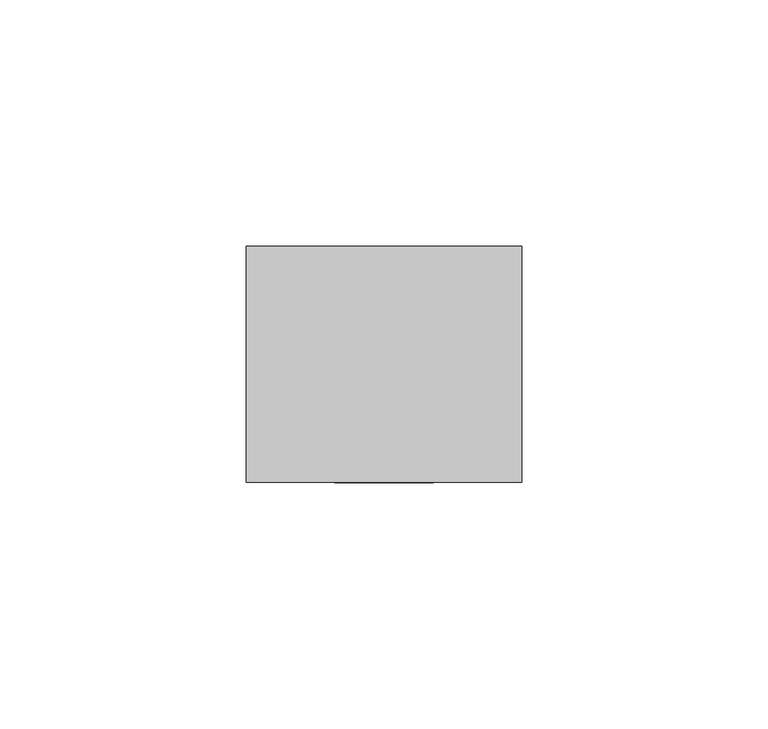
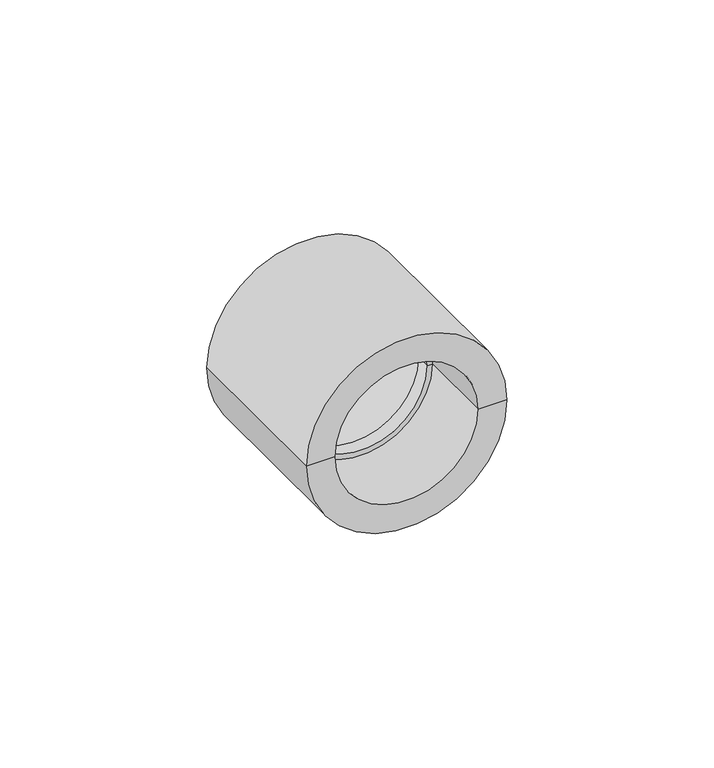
"""IFC4 building model written with IfcOpenShell, lengths in millimetres: pipe fitting geometry, NIRON RED termofusion manguito : Estándar."""

from ifc_helpers import new_model, si_unit, frame, origin, place, context, project, spatial, polyline, circle_curve, source, transform, mapped, element, save
from ifc_brep_helpers import plane_surface, cylinder_surface, revolved_surface, advanced_brep


def pipe_fitting_a914c4f6(model_context):
    return source(origin(), model_context, "Body", "AdvancedBrep", [
        advanced_brep(
        [(28.0, 48.0, 0.0), (-28.0, 48.0, 0.0), (-20.0, 48.0, 0.0), (20.0, 48.0, 0.0), (28.0, 0.0, 0.0), (-28.0, 0.0, 0.0), (20.0, 0.0, 0.0), (-20.0, 0.0, 0.0), (20.0, 22.0, 0.0), (-20.0, 22.0, 0.0), (18.5, 22.0, 0.0), (-18.5, 22.0, 0.0), (18.5, 26.0, 0.0), (-18.5, 26.0, 0.0), (20.0, 26.0, 0.0), (-20.0, 26.0, 0.0)],
        [
            (0, 1, circle_curve(frame((0.0, 48.0, 0.0), z_axis=(0.0, 1.0, 0.0), x_axis=(-1.0, 0.0, 0.0)), 28.0)),
            (1, 2),
            (2, 3, circle_curve(frame((0.0, 48.0, 0.0), z_axis=(0.0, -1.0, 0.0), x_axis=(-1.0, 0.0, 0.0)), 20.0)),
            (3, 0),
            (1, 0, circle_curve(frame((0.0, 48.0, 0.0), z_axis=(0.0, 1.0, 0.0), x_axis=(-1.0, 0.0, 0.0)), 28.0)),
            (3, 2, circle_curve(frame((0.0, 48.0, 0.0), z_axis=(0.0, -1.0, 0.0), x_axis=(-1.0, 0.0, 0.0)), 20.0)),
            (4, 5, circle_curve(frame((0.0, 0.0, 0.0), z_axis=(0.0, 1.0, 0.0), x_axis=(-1.0, 0.0, 0.0)), 28.0)),
            (5, 1),
            (0, 4),
            (5, 4, circle_curve(frame((0.0, 0.0, 0.0), z_axis=(0.0, 1.0, 0.0), x_axis=(-1.0, 0.0, 0.0)), 28.0)),
            (6, 7, circle_curve(frame((0.0, 0.0, 0.0), z_axis=(0.0, 1.0, 0.0), x_axis=(-1.0, 0.0, 0.0)), 20.0)),
            (7, 5),
            (4, 6),
            (7, 6, circle_curve(frame((0.0, 0.0, 0.0), z_axis=(0.0, 1.0, 0.0), x_axis=(-1.0, 0.0, 0.0)), 20.0)),
            (8, 9, circle_curve(frame((0.0, 22.0, 0.0), z_axis=(0.0, 1.0, 0.0), x_axis=(-1.0, 0.0, 0.0)), 20.0)),
            (9, 7),
            (6, 8),
            (9, 8, circle_curve(frame((0.0, 22.0, 0.0), z_axis=(0.0, 1.0, 0.0), x_axis=(-1.0, 0.0, 0.0)), 20.0)),
            (10, 11, circle_curve(frame((0.0, 22.0, 0.0), z_axis=(0.0, 1.0, 0.0), x_axis=(-1.0, 0.0, 0.0)), 18.5)),
            (11, 9),
            (8, 10),
            (11, 10, circle_curve(frame((0.0, 22.0, 0.0), z_axis=(0.0, 1.0, 0.0), x_axis=(-1.0, 0.0, 0.0)), 18.5)),
            (12, 13, circle_curve(frame((0.0, 26.0, 0.0), z_axis=(0.0, 1.0, 0.0), x_axis=(-1.0, 0.0, 0.0)), 18.5)),
            (13, 11),
            (10, 12),
            (13, 12, circle_curve(frame((0.0, 26.0, 0.0), z_axis=(0.0, 1.0, 0.0), x_axis=(-1.0, 0.0, 0.0)), 18.5)),
            (14, 15, circle_curve(frame((0.0, 26.0, 0.0), z_axis=(0.0, 1.0, 0.0), x_axis=(-1.0, 0.0, 0.0)), 20.0)),
            (15, 13),
            (12, 14),
            (15, 14, circle_curve(frame((0.0, 26.0, 0.0), z_axis=(0.0, 1.0, 0.0), x_axis=(-1.0, 0.0, 0.0)), 20.0)),
            (2, 15),
            (14, 3),
        ],
        [
            plane_surface(frame((0.0, 48.0, 0.0), z_axis=(0.0, 1.0, 0.0), x_axis=(-1.0, 0.0, 0.0))),
            cylinder_surface(frame((0.0, 73.0, 0.0), z_axis=(0.0, -1.0, 0.0), x_axis=(-1.0, 0.0, 0.0)), 28.0),
            plane_surface(frame((0.0, 0.0, 0.0), z_axis=(0.0, -1.0, 0.0), x_axis=(-1.0, 0.0, 0.0))),
            revolved_surface(polyline([(-20.0, 0.0, 0.0), (-20.0, 22.0, 0.0)]), (0.0, 73.0, 0.0), (0.0, -1.0, 0.0)),
            plane_surface(frame((0.0, 22.0, 0.0), z_axis=(0.0, -1.0, 0.0), x_axis=(-1.0, 0.0, 0.0))),
            revolved_surface(polyline([(-18.5, 22.0, 0.0), (-18.5, 26.0, 0.0)]), (0.0, 73.0, 0.0), (0.0, -1.0, 0.0)),
            plane_surface(frame((0.0, 26.0, 0.0), z_axis=(0.0, 1.0, 0.0), x_axis=(-1.0, 0.0, 0.0))),
            revolved_surface(polyline([(-20.0, 26.0, 0.0), (-20.0, 48.0, 0.0)]), (0.0, 73.0, 0.0), (0.0, -1.0, 0.0)),
        ],
        [
            (0, [[1, 2, 3, 4]]),
            (0, [[5, -4, 6, -2]]),
            (1, [[7, 8, -1, 9]]),
            (1, [[10, -9, -5, -8]]),
            (2, [[11, 12, -7, 13]]),
            (2, [[14, -13, -10, -12]]),
            (3, [[15, 16, -11, 17]]),
            (3, [[18, -17, -14, -16]]),
            (4, [[19, 20, -15, 21]]),
            (4, [[22, -21, -18, -20]]),
            (5, [[23, 24, -19, 25]]),
            (5, [[26, -25, -22, -24]]),
            (6, [[27, 28, -23, 29]]),
            (6, [[30, -29, -26, -28]]),
            (7, [[-3, 31, -27, 32]]),
            (7, [[-6, -32, -30, -31]]),
        ],
    ),
    ])


if __name__ == "__main__":
    model = new_model("IFC4")
    model_context = context("Model", 3, world=origin())
    ifc_project = project(units=[si_unit("LENGTHUNIT", "METRE", prefix="MILLI")], contexts=[model_context])
    site = spatial("IfcSite", under=ifc_project)
    building = spatial("IfcBuilding", under=site)
    placement = place(None, origin())
    pipe_fitting_shape = pipe_fitting_a914c4f6(model_context)
    element("IfcPipeFitting", 1, ObjectType="NIRON RED termofusion manguito : Estándar", at=placement, inside=building, context=model_context, shape_type="MappedRepresentation", body=[
        mapped(pipe_fitting_shape, transform((0.0, 0.0, 0.0), x_axis=(1.0, 0.0, 0.0), y_axis=(0.0, 1.0, 0.0), z_axis=(0.0, 0.0, 1.0))),
    ])
    save(model, "model.ifc")
